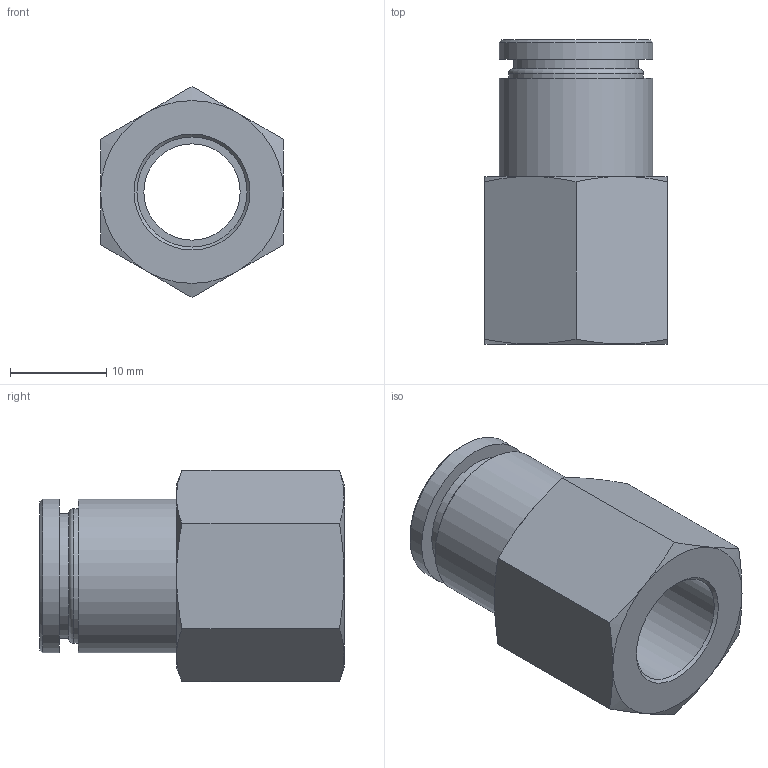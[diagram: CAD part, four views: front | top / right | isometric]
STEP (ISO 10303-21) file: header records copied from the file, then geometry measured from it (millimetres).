
FILE_DESCRIPTION(/* description */ (''),/* implementation_level */ '2;1');
FILE_NAME(/* name */ 'LXH14 0012 B2.stp',/* time_stamp */ '2026-04-27T18:59:37+02:00',/* author */ ('freju'),/* organization */ (''),/* preprocessor_version */ 'ST-DEVELOPER v20.1',/* originating_system */ 'Autodesk Inventor 2026',/* authorisation */ '');
FILE_SCHEMA (('AUTOMOTIVE_DESIGN { 1 0 10303 214 3 1 1 }'));
Length unit declared in the file: millimetre
Products named in the file (1): LXH14 0012 B2
Bounding box: 19 x 31.6 x 21.94 mm (x, y, z)
Volume: 4763.2 mm3; surface area: 3564.9 mm2
Topology: 1 solids, 1 shells, 35 faces, 72 edges, 44 vertices
Faces by surface type: cone 14, plane 13, cylinder 7, torus 1
Full cylindrical faces by diameter (mm): 10 x1, 11.445 x1, 12 x1, 13 x1, 14 x1, 16 x2
Entity records: 946 total; most frequent: CARTESIAN_POINT 200, DIRECTION 153, ORIENTED_EDGE 144, EDGE_CURVE 72, AXIS2_PLACEMENT_3D 69, VERTEX_POINT 44, EDGE_LOOP 42, FACE_OUTER_BOUND 35
